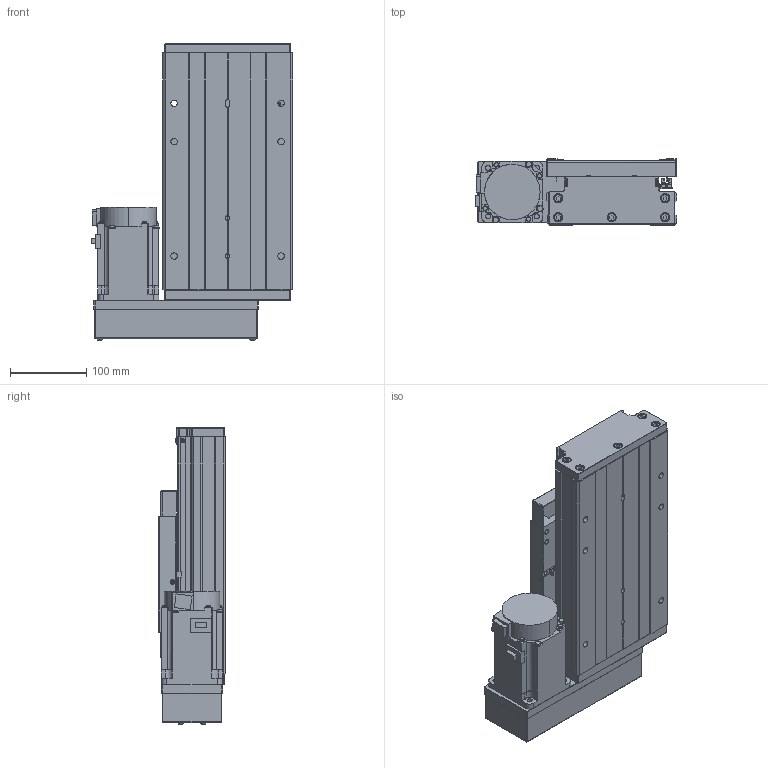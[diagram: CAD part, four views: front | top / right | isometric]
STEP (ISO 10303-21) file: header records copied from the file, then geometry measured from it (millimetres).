
FILE_DESCRIPTION (( 'STEP AP203' ), '1' );
FILE_NAME ('GTH17-50-BL-M75-C4.step', '2023-06-30T12:00:50', ( '微软用户' ), ( '微软中国' ), 'SwSTEP 2.0', 'SolidWorks 2020', '' );
FILE_SCHEMA (( 'CONFIG_CONTROL_DESIGN' ));
Length unit declared in the file: millimetre
Products named in the file (19): EE_SX911P_R; す晦芛蹟隊 M3℅5; GTH17-001_50; CTHA60-016; HG-KN73J-S100; GTH17-002_GTH17-002; GBT 70.1-M3℅5; GBT 70.2-M4¡Á45_M4¡Á35; GTH17-004; GBT77-2000 M3×3; GTH17-015-2_CTHA86-015-2; GTH17-005; GBT 70.1-M6¡Á20_M6¡Á20; GTH17-033; GB1155-6X6; GTH17-031; GTH17-50-BL-M75-C4; CTHA60-017; GBT 70.2-M3¡Á5_M3¡Á6
Assembly tree (58 placements, depth 2):
  GTH17-50-BL-M75-C4
    GTH17-001_50
    GTH17-002_GTH17-002
    GTH17-004
    GTH17-005
    GB1155-6X6  x2
    CTHA60-017  x3
    EE_SX911P_R  x3
    CTHA60-016  x2
    GBT 70.1-M3℅5  x6
    GBT77-2000 M3×3  x6
    GBT 70.1-M6¡Á20_M6¡Á20  x10
    GTH17-031
    GBT 70.2-M3¡Á5_M3¡Á6  x8
    す晦芛蹟隊 M3℅5  x6
    HG-KN73J-S100
    GBT 70.2-M4¡Á45_M4¡Á35  x4
    GTH17-015-2_CTHA86-015-2
    GTH17-033
Bounding box: 264.3 x 87 x 388.2 mm (x, y, z)
Volume: 3903894.7 mm3; surface area: 691638.6 mm2
Topology: 61 solids, 61 shells, 2419 faces, 5773 edges, 3571 vertices
Faces by surface type: plane 1304, cylinder 642, cone 297, torus 124, sphere 32, bspline 20
Entity records: 43814 total; most frequent: CARTESIAN_POINT 10216, DIRECTION 6301, ORIENTED_EDGE 6258, EDGE_CURVE 3129, AXIS2_PLACEMENT_3D 2134, LINE 2033, VECTOR 2033, VERTEX_POINT 1983
